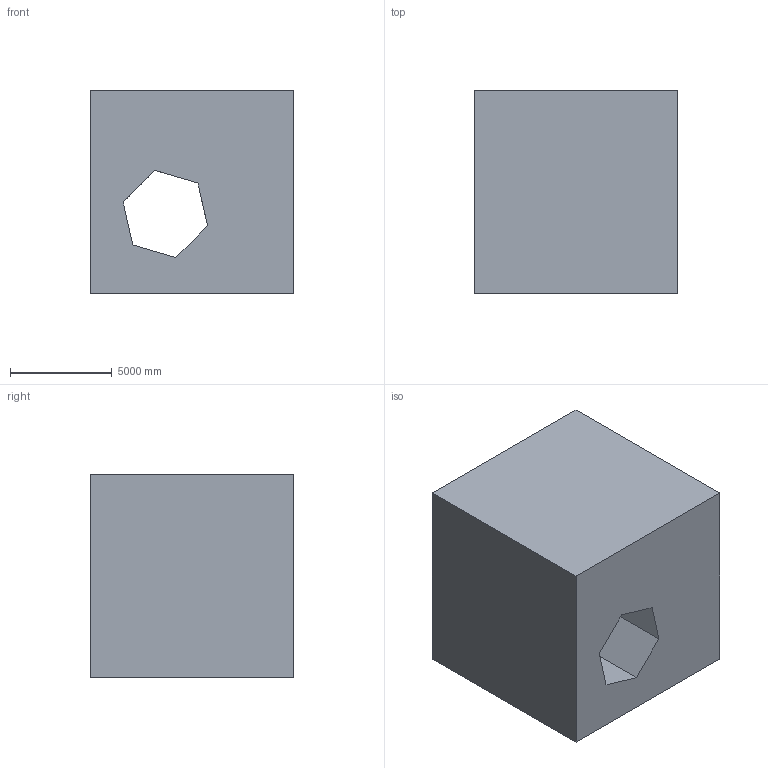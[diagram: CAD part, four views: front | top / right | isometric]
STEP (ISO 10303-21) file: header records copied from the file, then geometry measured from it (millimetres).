
FILE_DESCRIPTION (( 'STEP AP203' ), '1' );
FILE_NAME ('17.STEP', '2022-08-30T14:02:15', ( 'user' ), ( '' ), 'SwSTEP 2.0', 'SolidWorks 2021', '' );
FILE_SCHEMA (( 'CONFIG_CONTROL_DESIGN' ));
Length unit declared in the file: centimetre
Products named in the file (1): 17
Bounding box: 10000 x 10000 x 10000 mm (x, y, z)
Volume: 806487647547.7 mm3; surface area: 771358305.9 mm2
Topology: 1 solids, 1 shells, 16 faces, 45 edges, 30 vertices
Faces by surface type: plane 14, cylinder 2
Entity records: 598 total; most frequent: CARTESIAN_POINT 110, ORIENTED_EDGE 90, DIRECTION 77, EDGE_CURVE 45, VECTOR 35, LINE 35, VERTEX_POINT 30, AXIS2_PLACEMENT_3D 21
